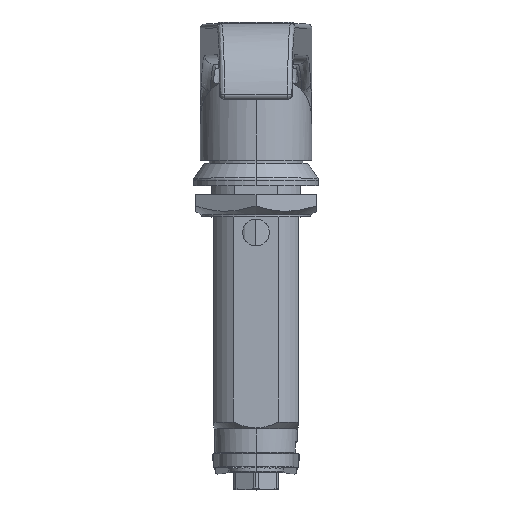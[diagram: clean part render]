
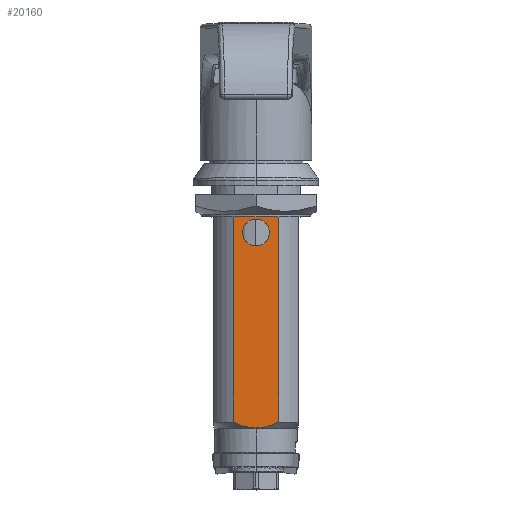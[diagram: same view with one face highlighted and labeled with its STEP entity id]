
A CAD part, top view. The second image highlights one B-rep face of the part: STEP entity #20160.
In plain terms, the highlighted planar face has unit normal (0, 0, 1) as drawn and (-1, 0, 0) by its records, which use the part's own axes.
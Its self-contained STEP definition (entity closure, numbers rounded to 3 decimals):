
#385 = CARTESIAN_POINT ( 'NONE',  ( -9.5, -5.137, 3. ) ) ;
#774 = DIRECTION ( 'NONE',  ( 0., 0., -1. ) ) ;
#847 = AXIS2_PLACEMENT_3D ( 'NONE', #15481, #4571, #17357 ) ;
#866 = ORIENTED_EDGE ( 'NONE', *, *, #19836, .F. ) ;
#1748 = CARTESIAN_POINT ( 'NONE',  ( -9.5, -4.736, 53.141 ) ) ;
#1762 = VECTOR ( 'NONE', #13654, 1000. ) ;
#1780 = LINE ( 'NONE', #17333, #1762 ) ;
#1965 = FACE_BOUND ( 'NONE', #4131, .T. ) ;
#2028 = CARTESIAN_POINT ( 'NONE',  ( -9.5, -3., 10.5 ) ) ;
#2137 = FACE_OUTER_BOUND ( 'NONE', #8514, .T. ) ;
#2212 = LINE ( 'NONE', #6134, #2471 ) ;
#2471 = VECTOR ( 'NONE', #17090, 1000. ) ;
#2491 = LINE ( 'NONE', #385, #2586 ) ;
#2586 = VECTOR ( 'NONE', #11299, 1000. ) ;
#3947 = CIRCLE ( 'NONE', #847, 3. ) ;
#4126 = AXIS2_PLACEMENT_3D ( 'NONE', #19304, #8268, #21184 ) ;
#4131 = EDGE_LOOP ( 'NONE', ( #6703, #15827 ) ) ;
#4571 = DIRECTION ( 'NONE',  ( -1., 0., 0. ) ) ;
#5158 = EDGE_CURVE ( 'NONE', #9445, #11595, #17732, .T. ) ;
#5375 = CARTESIAN_POINT ( 'NONE',  ( -9.5, -0.224, 54.25 ) ) ;
#5588 = CARTESIAN_POINT ( 'NONE',  ( -9.5, 0., 54.25 ) ) ;
#5645 = CARTESIAN_POINT ( 'NONE',  ( -9.5, 0.898, 54.25 ) ) ;
#5718 = CARTESIAN_POINT ( 'NONE',  ( -9.5, 1.775, 54.121 ) ) ;
#5788 = CARTESIAN_POINT ( 'NONE',  ( -9.5, 3.065, 53.777 ) ) ;
#5802 = ORIENTED_EDGE ( 'NONE', *, *, #20059, .T. ) ;
#6049 = ORIENTED_EDGE ( 'NONE', *, *, #19985, .F. ) ;
#6134 = CARTESIAN_POINT ( 'NONE',  ( -9.5, -5.137, 3.4 ) ) ;
#6287 = DIRECTION ( 'NONE',  ( 1., 0., 0. ) ) ;
#6703 = ORIENTED_EDGE ( 'NONE', *, *, #19624, .F. ) ;
#6802 = CARTESIAN_POINT ( 'NONE',  ( -9.5, 3.493, 53.636 ) ) ;
#7033 = CARTESIAN_POINT ( 'NONE',  ( -9.5, 5.137, 52.95 ) ) ;
#7119 = CARTESIAN_POINT ( 'NONE',  ( -9.5, 4.329, 53.317 ) ) ;
#7163 = CARTESIAN_POINT ( 'NONE',  ( -9.5, -0.897, 54.21 ) ) ;
#8169 = CARTESIAN_POINT ( 'NONE',  ( -9.5, 5.137, 3.4 ) ) ;
#8268 = DIRECTION ( 'NONE',  ( -1., 0., 0. ) ) ;
#8514 = EDGE_LOOP ( 'NONE', ( #6049, #866, #10689, #19135, #5802 ) ) ;
#8657 = CARTESIAN_POINT ( 'NONE',  ( -9.5, 4.737, 53.14 ) ) ;
#8935 = CARTESIAN_POINT ( 'NONE',  ( -9.5, -1.778, 54.095 ) ) ;
#9445 = VERTEX_POINT ( 'NONE', #11417 ) ;
#10265 = AXIS2_PLACEMENT_3D ( 'NONE', #20965, #6287, #774 ) ;
#10689 = ORIENTED_EDGE ( 'NONE', *, *, #5158, .F. ) ;
#10715 = VERTEX_POINT ( 'NONE', #2028 ) ;
#10761 = CARTESIAN_POINT ( 'NONE',  ( -9.5, -3.067, 53.776 ) ) ;
#11299 = DIRECTION ( 'NONE',  ( 0., 0., -1. ) ) ;
#11417 = CARTESIAN_POINT ( 'NONE',  ( -9.5, 5.137, 52.95 ) ) ;
#11571 = VERTEX_POINT ( 'NONE', #14421 ) ;
#11595 = VERTEX_POINT ( 'NONE', #19914 ) ;
#11677 = PLANE ( 'NONE',  #10265 ) ;
#11957 = VERTEX_POINT ( 'NONE', #17020 ) ;
#12583 = CARTESIAN_POINT ( 'NONE',  ( -9.5, -4.324, 53.32 ) ) ;
#13654 = DIRECTION ( 'NONE',  ( 0., 0., 1. ) ) ;
#13933 = VERTEX_POINT ( 'NONE', #8169 ) ;
#14421 = CARTESIAN_POINT ( 'NONE',  ( -9.5, -5.137, 3.4 ) ) ;
#14492 = CARTESIAN_POINT ( 'NONE',  ( -9.5, -5.137, 52.95 ) ) ;
#15481 = CARTESIAN_POINT ( 'NONE',  ( -9.5, 0., 10.5 ) ) ;
#15827 = ORIENTED_EDGE ( 'NONE', *, *, #20668, .F. ) ;
#16021 = VERTEX_POINT ( 'NONE', #17160 ) ;
#16174 = B_SPLINE_CURVE_WITH_KNOTS ( 'NONE', 3,
 ( #16287, #5375, #18159, #7163, #19983, #8935, #21890, #10761, #23698, #12583, #1748, #14492 ),
 .UNSPECIFIED., .F., .F.,
 ( 4, 2, 2, 2, 2, 4 ),
 ( 0.011, 0.012, 0.013, 0.014, 0.015, 0.017 ),
 .UNSPECIFIED. ) ;
#16287 = CARTESIAN_POINT ( 'NONE',  ( -9.5, 0., 54.25 ) ) ;
#17020 = CARTESIAN_POINT ( 'NONE',  ( -9.5, -5.137, 52.95 ) ) ;
#17090 = DIRECTION ( 'NONE',  ( 0., -1., 0. ) ) ;
#17160 = CARTESIAN_POINT ( 'NONE',  ( -9.5, 3., 10.5 ) ) ;
#17333 = CARTESIAN_POINT ( 'NONE',  ( -9.5, 5.137, 3. ) ) ;
#17357 = DIRECTION ( 'NONE',  ( 0., 0., -1. ) ) ;
#17732 = B_SPLINE_CURVE_WITH_KNOTS ( 'NONE', 3,
 ( #7033, #8657, #7119, #6802, #5788, #5718, #5645, #5588 ),
 .UNSPECIFIED., .F., .F.,
 ( 4, 2, 2, 4 ),
 ( 0.006, 0.007, 0.009, 0.011 ),
 .UNSPECIFIED. ) ;
#18159 = CARTESIAN_POINT ( 'NONE',  ( -9.5, -0.45, 54.242 ) ) ;
#18180 = CIRCLE ( 'NONE', #4126, 3. ) ;
#19135 = ORIENTED_EDGE ( 'NONE', *, *, #20192, .F. ) ;
#19304 = CARTESIAN_POINT ( 'NONE',  ( -9.5, 0., 10.5 ) ) ;
#19624 = EDGE_CURVE ( 'NONE', #10715, #16021, #3947, .T. ) ;
#19836 = EDGE_CURVE ( 'NONE', #11595, #11957, #16174, .T. ) ;
#19914 = CARTESIAN_POINT ( 'NONE',  ( -9.5, 0., 54.25 ) ) ;
#19983 = CARTESIAN_POINT ( 'NONE',  ( -9.5, -1.119, 54.187 ) ) ;
#19985 = EDGE_CURVE ( 'NONE', #11957, #11571, #2491, .T. ) ;
#20059 = EDGE_CURVE ( 'NONE', #13933, #11571, #2212, .T. ) ;
#20160 = ADVANCED_FACE ( 'NONE', ( #1965, #2137 ), #11677, .F. ) ;
#20192 = EDGE_CURVE ( 'NONE', #13933, #9445, #1780, .T. ) ;
#20668 = EDGE_CURVE ( 'NONE', #16021, #10715, #18180, .T. ) ;
#20965 = CARTESIAN_POINT ( 'NONE',  ( -9.5, 0., -11.098 ) ) ;
#21184 = DIRECTION ( 'NONE',  ( 0., 0., -1. ) ) ;
#21890 = CARTESIAN_POINT ( 'NONE',  ( -9.5, -2.212, 54.005 ) ) ;
#23698 = CARTESIAN_POINT ( 'NONE',  ( -9.5, -3.489, 53.637 ) ) ;
